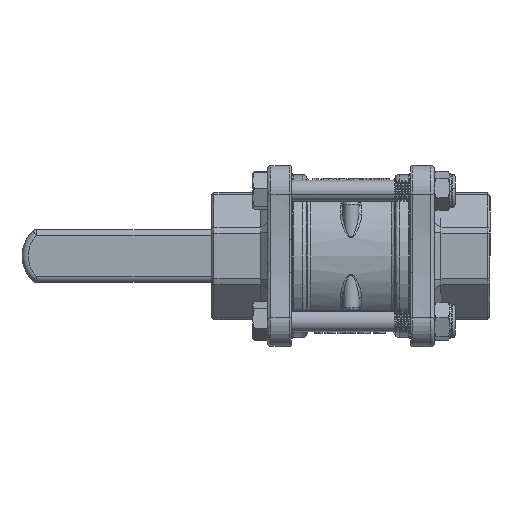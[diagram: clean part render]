
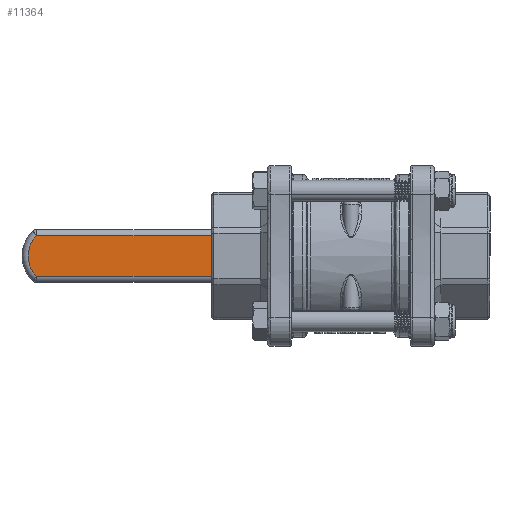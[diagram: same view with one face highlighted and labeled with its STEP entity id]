
A CAD part, front view. The second image highlights one B-rep face of the part: STEP entity #11364.
In plain terms, the highlighted planar face has unit normal (0, -1, 0).
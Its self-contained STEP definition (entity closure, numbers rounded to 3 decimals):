
#1329 = ORIENTED_EDGE ( 'NONE', *, *, #60911, .F. ) ;
#1330 = ORIENTED_EDGE ( 'NONE', *, *, #60912, .T. ) ;
#1331 = ORIENTED_EDGE ( 'NONE', *, *, #60908, .T. ) ;
#1332 = ORIENTED_EDGE ( 'NONE', *, *, #60913, .T. ) ;
#7661 = LINE ( 'NONE', #11308, #7666 ) ;
#7665 = CIRCLE ( 'NONE', #26453, 10.7 ) ;
#7666 = VECTOR ( 'NONE', #11311, 1000. ) ;
#7670 = LINE ( 'NONE', #11314, #7674 ) ;
#7674 = VECTOR ( 'NONE', #11315, 1000. ) ;
#7676 = LINE ( 'NONE', #11329, #7680 ) ;
#7680 = VECTOR ( 'NONE', #11322, 1000. ) ;
#11308 = CARTESIAN_POINT ( 'NONE',  ( 82., -2.5, 7.7 ) ) ;
#11311 = DIRECTION ( 'NONE',  ( -1., 0., 0. ) ) ;
#11314 = CARTESIAN_POINT ( 'NONE',  ( 82., -2.5, -7.7 ) ) ;
#11315 = DIRECTION ( 'NONE',  ( -1., 0., 0. ) ) ;
#11322 = DIRECTION ( 'NONE',  ( 0., 0., -1. ) ) ;
#11329 = CARTESIAN_POINT ( 'NONE',  ( 0., -2.5, -7.7 ) ) ;
#11334 = CARTESIAN_POINT ( 'NONE',  ( 69., -2.5, 0. ) ) ;
#11335 = DIRECTION ( 'NONE',  ( 0., -1., 0. ) ) ;
#11337 = DIRECTION ( 'NONE',  ( 0., 0., 1. ) ) ;
#11364 = ADVANCED_FACE ( 'NONE', ( #63917 ), #44534, .F. ) ;
#26453 = AXIS2_PLACEMENT_3D ( 'NONE', #11334, #11335, #11337 ) ;
#32719 = CARTESIAN_POINT ( 'NONE',  ( 0., -2.5, 7.7 ) ) ;
#32725 = CARTESIAN_POINT ( 'NONE',  ( 0., -2.5, -7.7 ) ) ;
#32735 = CARTESIAN_POINT ( 'NONE',  ( 76.43, -2.5, 7.7 ) ) ;
#32739 = CARTESIAN_POINT ( 'NONE',  ( 76.43, -2.5, -7.7 ) ) ;
#37364 = AXIS2_PLACEMENT_3D ( 'NONE', #44529, #44537, #44538 ) ;
#44529 = CARTESIAN_POINT ( 'NONE',  ( 82., -2.5, -7.7 ) ) ;
#44534 = PLANE ( 'NONE',  #37364 ) ;
#44537 = DIRECTION ( 'NONE',  ( 0., 1., 0. ) ) ;
#44538 = DIRECTION ( 'NONE',  ( 0., 0., 1. ) ) ;
#50485 = EDGE_LOOP ( 'NONE', ( #1329, #1330, #1331, #1332 ) ) ;
#60908 = EDGE_CURVE ( 'NONE', #61963, #61953, #7661, .T. ) ;
#60911 = EDGE_CURVE ( 'NONE', #61965, #61958, #7670, .T. ) ;
#60912 = EDGE_CURVE ( 'NONE', #61965, #61963, #7665, .T. ) ;
#60913 = EDGE_CURVE ( 'NONE', #61953, #61958, #7676, .T. ) ;
#61953 = VERTEX_POINT ( 'NONE', #32719 ) ;
#61958 = VERTEX_POINT ( 'NONE', #32725 ) ;
#61963 = VERTEX_POINT ( 'NONE', #32735 ) ;
#61965 = VERTEX_POINT ( 'NONE', #32739 ) ;
#63917 = FACE_OUTER_BOUND ( 'NONE', #50485, .T. ) ;
